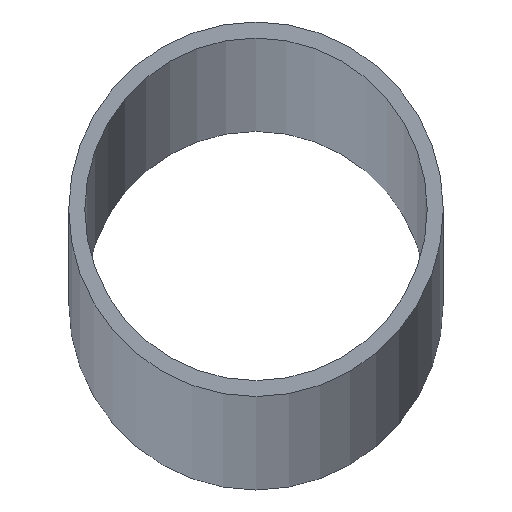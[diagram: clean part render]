
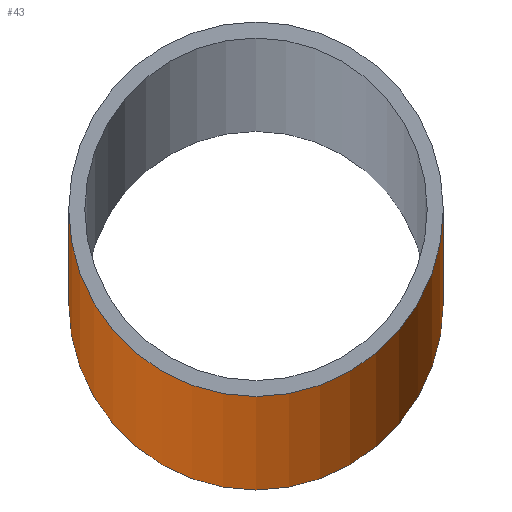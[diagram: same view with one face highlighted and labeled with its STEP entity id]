
A CAD part, top view. The second image highlights one B-rep face of the part: STEP entity #43.
In plain terms, the highlighted cylindrical face has radius 14 mm (diameter 28 mm), a full revolution.
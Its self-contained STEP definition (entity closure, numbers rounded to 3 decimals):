
#12 = CARTESIAN_POINT ( 'NONE',  ( 14., 0., 0. ) ) ;
#18 = ORIENTED_EDGE ( 'NONE', *, *, #84, .T. ) ;
#22 = CIRCLE ( 'NONE', #70, 14. ) ;
#23 = VERTEX_POINT ( 'NONE', #12 ) ;
#43 = ADVANCED_FACE ( 'NONE', ( #68, #79 ), #49, .T. ) ;
#45 = CIRCLE ( 'NONE', #56, 14. ) ;
#49 = CYLINDRICAL_SURFACE ( 'NONE', #103, 14. ) ;
#51 = CARTESIAN_POINT ( 'NONE',  ( 0., 0., 0. ) ) ;
#56 = AXIS2_PLACEMENT_3D ( 'NONE', #133, #81, #64 ) ;
#60 = DIRECTION ( 'NONE',  ( 0., 0., -1. ) ) ;
#64 = DIRECTION ( 'NONE',  ( 1., 0., 0. ) ) ;
#68 = FACE_OUTER_BOUND ( 'NONE', #125, .T. ) ;
#70 = AXIS2_PLACEMENT_3D ( 'NONE', #51, #97, #78 ) ;
#73 = CARTESIAN_POINT ( 'NONE',  ( 14., 0., 4000. ) ) ;
#77 = ORIENTED_EDGE ( 'NONE', *, *, #106, .F. ) ;
#78 = DIRECTION ( 'NONE',  ( 1., 0., 0. ) ) ;
#79 = FACE_OUTER_BOUND ( 'NONE', #122, .T. ) ;
#81 = DIRECTION ( 'NONE',  ( 0., 0., 1. ) ) ;
#84 = EDGE_CURVE ( 'NONE', #23, #23, #22, .T. ) ;
#90 = DIRECTION ( 'NONE',  ( -1., 0., 0. ) ) ;
#97 = DIRECTION ( 'NONE',  ( 0., 0., 1. ) ) ;
#103 = AXIS2_PLACEMENT_3D ( 'NONE', #131, #60, #90 ) ;
#106 = EDGE_CURVE ( 'NONE', #128, #128, #45, .T. ) ;
#122 = EDGE_LOOP ( 'NONE', ( #18 ) ) ;
#125 = EDGE_LOOP ( 'NONE', ( #77 ) ) ;
#128 = VERTEX_POINT ( 'NONE', #73 ) ;
#131 = CARTESIAN_POINT ( 'NONE',  ( 0., 0., 4000. ) ) ;
#133 = CARTESIAN_POINT ( 'NONE',  ( 0., 0., 4000. ) ) ;
